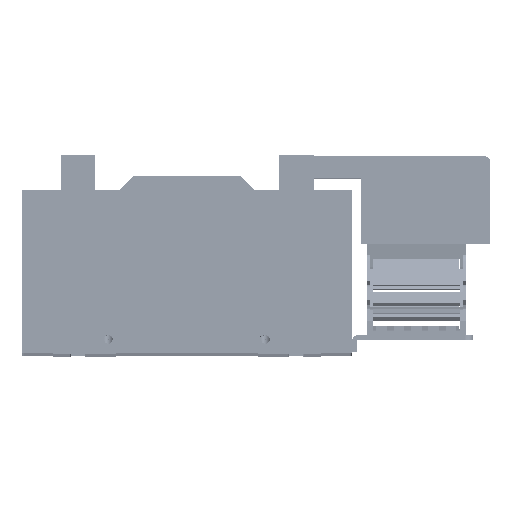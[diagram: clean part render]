
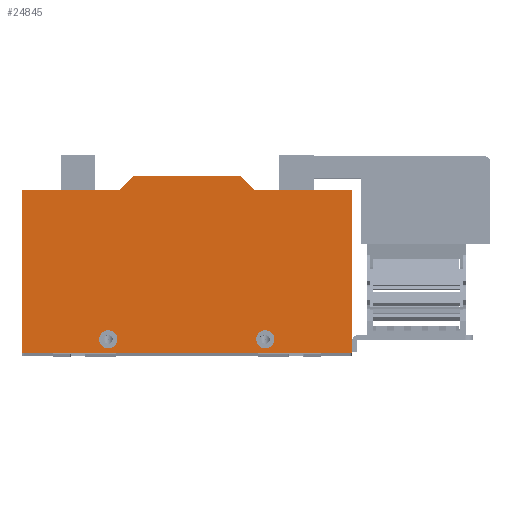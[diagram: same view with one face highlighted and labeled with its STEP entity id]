
A CAD part, top view. The second image highlights one B-rep face of the part: STEP entity #24845.
In plain terms, the highlighted planar face has unit normal (0, 0, 1) as drawn and (0, 0, -1) by its records, which use the part's own axes.
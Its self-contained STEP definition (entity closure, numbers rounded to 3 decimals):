
#22904 = VERTEX_POINT ( 'NONE', #80843 ) ;
#23028 = VERTEX_POINT ( 'NONE', #80652 ) ;
#23045 = EDGE_CURVE ( 'NONE', #23028, #22904, #80623, .T. ) ;
#23352 = EDGE_CURVE ( 'NONE', #23379, #23412, #81110, .T. ) ;
#23379 = VERTEX_POINT ( 'NONE', #81252 ) ;
#23412 = VERTEX_POINT ( 'NONE', #81396 ) ;
#23735 = VERTEX_POINT ( 'NONE', #81744 ) ;
#23827 = EDGE_CURVE ( 'NONE', #23735, #23829, #81645, .T. ) ;
#23829 = VERTEX_POINT ( 'NONE', #81640 ) ;
#23866 = ORIENTED_EDGE ( 'NONE', *, *, #23827, .F. ) ;
#23867 = EDGE_LOOP ( 'NONE', ( #23870, #23874, #24901, #24934, #24435, #24815, #24818, #24707 ) ) ;
#23870 = ORIENTED_EDGE ( 'NONE', *, *, #24103, .T. ) ;
#23874 = ORIENTED_EDGE ( 'NONE', *, *, #23876, .F. ) ;
#23876 = EDGE_CURVE ( 'NONE', #23878, #24073, #81560, .T. ) ;
#23878 = VERTEX_POINT ( 'NONE', #81556 ) ;
#23914 = VERTEX_POINT ( 'NONE', #81897 ) ;
#24073 = VERTEX_POINT ( 'NONE', #82012 ) ;
#24103 = EDGE_CURVE ( 'NONE', #23412, #24073, #82084, .T. ) ;
#24163 = VERTEX_POINT ( 'NONE', #82040 ) ;
#24359 = EDGE_CURVE ( 'NONE', #23914, #24408, #82156, .T. ) ;
#24390 = EDGE_CURVE ( 'NONE', #24163, #23379, #82293, .T. ) ;
#24408 = VERTEX_POINT ( 'NONE', #82274 ) ;
#24431 = ORIENTED_EDGE ( 'NONE', *, *, #23045, .F. ) ;
#24435 = ORIENTED_EDGE ( 'NONE', *, *, #24801, .F. ) ;
#24460 = EDGE_CURVE ( 'NONE', #23829, #23735, #82259, .T. ) ;
#24512 = ORIENTED_EDGE ( 'NONE', *, *, #24964, .F. ) ;
#24618 = ORIENTED_EDGE ( 'NONE', *, *, #24460, .F. ) ;
#24707 = ORIENTED_EDGE ( 'NONE', *, *, #23352, .T. ) ;
#24801 = EDGE_CURVE ( 'NONE', #24870, #24408, #82607, .T. ) ;
#24815 = ORIENTED_EDGE ( 'NONE', *, *, #24816, .F. ) ;
#24816 = EDGE_CURVE ( 'NONE', #24163, #24870, #82602, .T. ) ;
#24818 = ORIENTED_EDGE ( 'NONE', *, *, #24390, .T. ) ;
#24845 = ADVANCED_FACE ( 'NONE', ( #82579, #82578, #82577 ), #82576, .F. ) ;
#24851 = EDGE_LOOP ( 'NONE', ( #24512, #24431 ) ) ;
#24870 = VERTEX_POINT ( 'NONE', #82561 ) ;
#24901 = ORIENTED_EDGE ( 'NONE', *, *, #24906, .F. ) ;
#24906 = EDGE_CURVE ( 'NONE', #23914, #23878, #82555, .T. ) ;
#24934 = ORIENTED_EDGE ( 'NONE', *, *, #24359, .T. ) ;
#24964 = EDGE_CURVE ( 'NONE', #22904, #23028, #82539, .T. ) ;
#24995 = EDGE_LOOP ( 'NONE', ( #24618, #23866 ) ) ;
#80619 = DIRECTION ( 'NONE',  ( -1., 0., 0. ) ) ;
#80620 = DIRECTION ( 'NONE',  ( 0., 0., -1. ) ) ;
#80621 = CARTESIAN_POINT ( 'NONE',  ( -125.441, 76.299, 0. ) ) ;
#80622 = AXIS2_PLACEMENT_3D ( 'NONE', #80621, #80620, #80619 ) ;
#80623 = CIRCLE ( 'NONE', #80622, 5.25 ) ;
#80652 = CARTESIAN_POINT ( 'NONE',  ( -120.191, 76.299, 0. ) ) ;
#80843 = CARTESIAN_POINT ( 'NONE',  ( -130.691, 76.299, 0. ) ) ;
#81107 = DIRECTION ( 'NONE',  ( 1., 0., 0. ) ) ;
#81108 = VECTOR ( 'NONE', #81107, 1000. ) ;
#81109 = CARTESIAN_POINT ( 'NONE',  ( -175.191, 84.299, 0. ) ) ;
#81110 = LINE ( 'NONE', #81109, #81108 ) ;
#81252 = CARTESIAN_POINT ( 'NONE',  ( -175.191, 84.299, 0. ) ) ;
#81396 = CARTESIAN_POINT ( 'NONE',  ( 14.809, 84.299, 0. ) ) ;
#81556 = CARTESIAN_POINT ( 'NONE',  ( -41.191, -9.701, 0. ) ) ;
#81557 = DIRECTION ( 'NONE',  ( 1., 0., 0. ) ) ;
#81558 = VECTOR ( 'NONE', #81557, 1000. ) ;
#81559 = CARTESIAN_POINT ( 'NONE',  ( 14.809, -9.701, 0. ) ) ;
#81560 = LINE ( 'NONE', #81559, #81558 ) ;
#81640 = CARTESIAN_POINT ( 'NONE',  ( -40.191, 76.299, 0. ) ) ;
#81641 = DIRECTION ( 'NONE',  ( -1., 0., 0. ) ) ;
#81642 = DIRECTION ( 'NONE',  ( 0., 0., -1. ) ) ;
#81643 = CARTESIAN_POINT ( 'NONE',  ( -34.941, 76.299, 0. ) ) ;
#81644 = AXIS2_PLACEMENT_3D ( 'NONE', #81643, #81642, #81641 ) ;
#81645 = CIRCLE ( 'NONE', #81644, 5.25 ) ;
#81744 = CARTESIAN_POINT ( 'NONE',  ( -29.691, 76.299, 0. ) ) ;
#81897 = CARTESIAN_POINT ( 'NONE',  ( -49.191, -17.701, 0. ) ) ;
#82012 = CARTESIAN_POINT ( 'NONE',  ( 14.809, -9.701, 0. ) ) ;
#82040 = CARTESIAN_POINT ( 'NONE',  ( -175.191, -9.701, 0. ) ) ;
#82076 = DIRECTION ( 'NONE',  ( 0., -1., 0. ) ) ;
#82077 = VECTOR ( 'NONE', #82076, 1000. ) ;
#82078 = CARTESIAN_POINT ( 'NONE',  ( 14.809, 84.299, 0. ) ) ;
#82084 = LINE ( 'NONE', #82078, #82077 ) ;
#82153 = DIRECTION ( 'NONE',  ( -1., 0., 0. ) ) ;
#82154 = VECTOR ( 'NONE', #82153, 1000. ) ;
#82155 = CARTESIAN_POINT ( 'NONE',  ( 14.809, -17.701, 0. ) ) ;
#82156 = LINE ( 'NONE', #82155, #82154 ) ;
#82255 = DIRECTION ( 'NONE',  ( -1., 0., 0. ) ) ;
#82256 = DIRECTION ( 'NONE',  ( 0., 0., -1. ) ) ;
#82257 = CARTESIAN_POINT ( 'NONE',  ( -34.941, 76.299, 0. ) ) ;
#82258 = AXIS2_PLACEMENT_3D ( 'NONE', #82257, #82256, #82255 ) ;
#82259 = CIRCLE ( 'NONE', #82258, 5.25 ) ;
#82274 = CARTESIAN_POINT ( 'NONE',  ( -111.191, -17.701, 0. ) ) ;
#82290 = DIRECTION ( 'NONE',  ( 0., 1., 0. ) ) ;
#82291 = VECTOR ( 'NONE', #82290, 1000. ) ;
#82292 = CARTESIAN_POINT ( 'NONE',  ( -175.191, -17.701, 0. ) ) ;
#82293 = LINE ( 'NONE', #82292, #82291 ) ;
#82535 = DIRECTION ( 'NONE',  ( -1., 0., 0. ) ) ;
#82536 = DIRECTION ( 'NONE',  ( 0., 0., -1. ) ) ;
#82537 = CARTESIAN_POINT ( 'NONE',  ( -125.441, 76.299, 0. ) ) ;
#82538 = AXIS2_PLACEMENT_3D ( 'NONE', #82537, #82536, #82535 ) ;
#82539 = CIRCLE ( 'NONE', #82538, 5.25 ) ;
#82552 = DIRECTION ( 'NONE',  ( 0.707, 0.707, 0. ) ) ;
#82553 = VECTOR ( 'NONE', #82552, 1000. ) ;
#82554 = CARTESIAN_POINT ( 'NONE',  ( -41.191, -9.701, 0. ) ) ;
#82555 = LINE ( 'NONE', #82554, #82553 ) ;
#82561 = CARTESIAN_POINT ( 'NONE',  ( -119.191, -9.701, 0. ) ) ;
#82572 = DIRECTION ( 'NONE',  ( 1., 0., 0. ) ) ;
#82573 = DIRECTION ( 'NONE',  ( 0., 0., 1. ) ) ;
#82574 = CARTESIAN_POINT ( 'NONE',  ( -175.191, 84.299, 0. ) ) ;
#82575 = AXIS2_PLACEMENT_3D ( 'NONE', #82574, #82573, #82572 ) ;
#82576 = PLANE ( 'NONE',  #82575 ) ;
#82577 = FACE_OUTER_BOUND ( 'NONE', #23867, .T. ) ;
#82578 = FACE_BOUND ( 'NONE', #24995, .T. ) ;
#82579 = FACE_BOUND ( 'NONE', #24851, .T. ) ;
#82594 = DIRECTION ( 'NONE',  ( 1., 0., 0. ) ) ;
#82595 = VECTOR ( 'NONE', #82594, 1000. ) ;
#82596 = CARTESIAN_POINT ( 'NONE',  ( -119.191, -9.701, 0. ) ) ;
#82602 = LINE ( 'NONE', #82596, #82595 ) ;
#82604 = DIRECTION ( 'NONE',  ( 0.707, -0.707, 0. ) ) ;
#82605 = VECTOR ( 'NONE', #82604, 1000. ) ;
#82606 = CARTESIAN_POINT ( 'NONE',  ( -111.191, -17.701, 0. ) ) ;
#82607 = LINE ( 'NONE', #82606, #82605 ) ;
